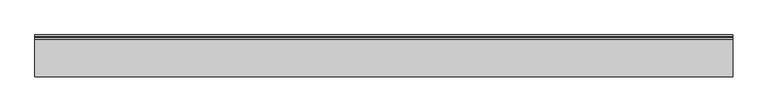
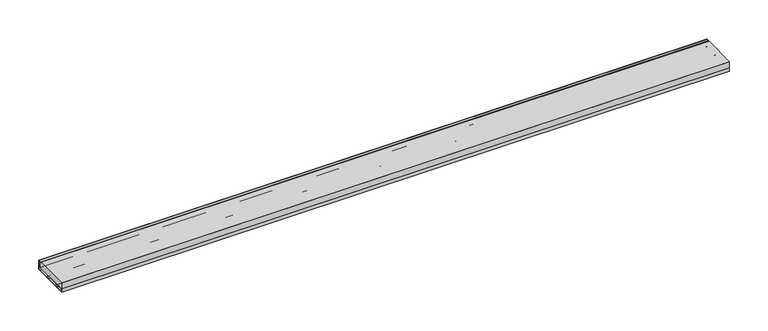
"""IFC4 building model written with IfcOpenShell, lengths in millimetres: proxy geometry, BATTISCOPA : BATTISCOPA."""

from ifc_helpers import new_model, si_unit, point, frame, frame_2d, origin, place, context, project, spatial, polyline, circle_curve, trimmed, segment, composite_curve, outline, extrude, source, transform, mapped, element, save


def generic_models_89d77330(model_context):
    return source(origin(), model_context, "Body", "SweptSolid", [
        extrude(outline(composite_curve([segment(trimmed(circle_curve(frame_2d((53.0, -3.0)), 3.0), [point((53.0, 0.0))], [point((56.0, -3.0))], False, "CARTESIAN"), True, "CONTINUOUS"), segment(polyline([(56.0, -3.0), (56.0, -10.0), (0.0, -10.0), (0.0, 0.0), (53.0, 0.0)]), True, "CONTINUOUS")], self_intersect=False)), frame((-500.0, 0.0, 0.0), z_axis=(1.0, 0.0, 0.0), x_axis=(0.0, 1.0, 0.0)), (0.0, 0.0, 1.0), 1000.0),
        extrude(outline(polyline([(58.0, -10.0), (58.0, 0.0), (60.0, -1.2235885), (60.0, -10.0), (60.0, -15.0), (0.0, -15.0), (0.0, -10.0), (58.0, -10.0)]), holes=[composite_curve([segment(trimmed(circle_curve(frame_2d((12.05, -12.5363027)), 1.5), [point((12.05, -14.0363027))], [point((12.05, -11.0363027))], True, "CARTESIAN"), True, "CONTINUOUS"), segment(polyline([(12.05, -11.0363027), (3.45, -11.0363027)]), True, "CONTINUOUS"), segment(trimmed(circle_curve(frame_2d((3.45, -12.5363027)), 1.5), [point((3.45, -11.0363027))], [point((3.45, -14.0363027))], True, "CARTESIAN"), True, "CONTINUOUS"), segment(polyline([(3.45, -14.0363027), (12.05, -14.0363027)]), True, "CONTINUOUS")], self_intersect=False), composite_curve([segment(trimmed(circle_curve(frame_2d((38.55, -12.5363027)), 1.5), [point((38.55, -11.0363027))], [point((38.55, -14.0363027))], True, "CARTESIAN"), True, "CONTINUOUS"), segment(polyline([(38.55, -14.0363027), (56.55, -14.0363027)]), True, "CONTINUOUS"), segment(trimmed(circle_curve(frame_2d((56.55, -12.5363027)), 1.5), [point((56.55, -14.0363027))], [point((56.55, -11.0363027))], True, "CARTESIAN"), True, "CONTINUOUS"), segment(polyline([(56.55, -11.0363027), (38.55, -11.0363027)]), True, "CONTINUOUS")], self_intersect=False), composite_curve([segment(trimmed(circle_curve(frame_2d((16.3, -12.5363027)), 1.5), [point((16.3, -11.0363027))], [point((16.3, -14.0363027))], True, "CARTESIAN"), True, "CONTINUOUS"), segment(polyline([(16.3, -14.0363027), (34.3, -14.0363027)]), True, "CONTINUOUS"), segment(trimmed(circle_curve(frame_2d((34.3, -12.5363027)), 1.5), [point((34.3, -14.0363027))], [point((34.3, -11.0363027))], True, "CARTESIAN"), True, "CONTINUOUS"), segment(polyline([(34.3, -11.0363027), (16.3, -11.0363027)]), True, "CONTINUOUS")], self_intersect=False)]), frame((-500.0, 0.0, 0.0), z_axis=(1.0, 0.0, 0.0), x_axis=(0.0, 1.0, 0.0)), (0.0, 0.0, 1.0), 1000.0),
    ])


if __name__ == "__main__":
    model = new_model("IFC4")
    model_context = context("Model", 3, world=origin())
    ifc_project = project(units=[si_unit("LENGTHUNIT", "METRE", prefix="MILLI")], contexts=[model_context])
    site = spatial("IfcSite", under=ifc_project)
    building = spatial("IfcBuilding", under=site)
    placement = place(None, origin())
    generic_models_shape = generic_models_89d77330(model_context)
    element("IfcBuildingElementProxy", 1, Name="BATTISCOPA : BATTISCOPA", ObjectType="BATTISCOPA : BATTISCOPA", at=placement, inside=building, context=model_context, shape_type="MappedRepresentation", body=[
        mapped(generic_models_shape, transform((0.0, 0.0, 0.0), x_axis=(1.0, 0.0, 0.0), y_axis=(0.0, 1.0, 0.0), z_axis=(0.0, 0.0, 1.0))),
    ])
    save(model, "model.ifc")
